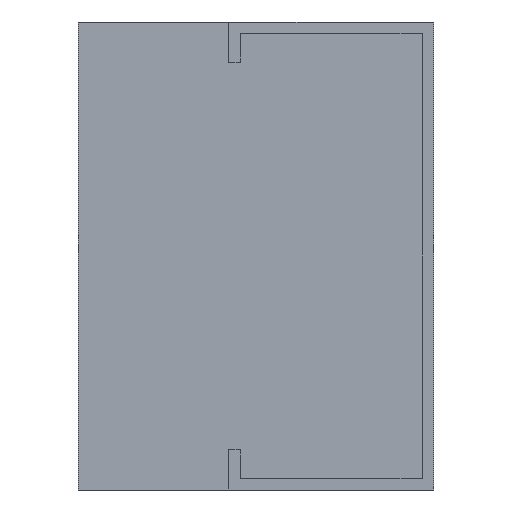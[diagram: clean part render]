
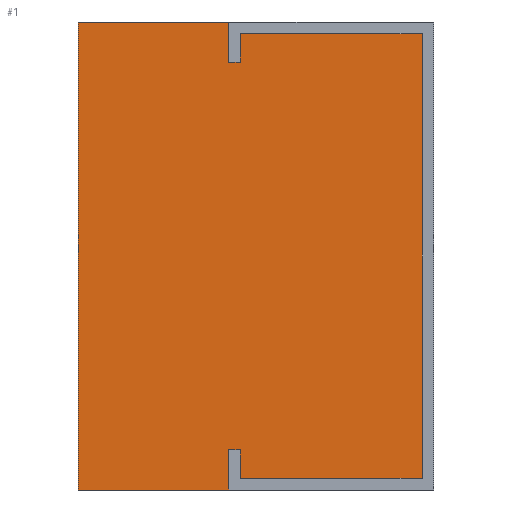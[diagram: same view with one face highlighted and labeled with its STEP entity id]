
A CAD part, left-side view. The second image highlights one B-rep face of the part: STEP entity #1.
In plain terms, the highlighted planar face has unit normal (-1, 0, 0).
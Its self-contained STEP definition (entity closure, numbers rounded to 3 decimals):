
#1 = ADVANCED_FACE ( 'NONE', ( #190 ), #75, .F. ) ;
#27 = DIRECTION ( 'NONE',  ( 0., 1., 0. ) ) ;
#30 = DIRECTION ( 'NONE',  ( 0., 0., 1. ) ) ;
#75 = PLANE ( 'NONE',  #1472 ) ;
#190 = FACE_OUTER_BOUND ( 'NONE', #1462, .T. ) ;
#194 = CARTESIAN_POINT ( 'NONE',  ( -16.3, -52.3, 46.7 ) ) ;
#283 = LINE ( 'NONE', #402, #1251 ) ;
#312 = CARTESIAN_POINT ( 'NONE',  ( -16.3, -54.6, -46.7 ) ) ;
#393 = EDGE_CURVE ( 'NONE', #431, #1070, #822, .T. ) ;
#402 = CARTESIAN_POINT ( 'NONE',  ( -16.3, -52.3, 46.7 ) ) ;
#420 = CARTESIAN_POINT ( 'NONE',  ( -16.3, 16.3, -124.736 ) ) ;
#431 = VERTEX_POINT ( 'NONE', #1500 ) ;
#506 = ORIENTED_EDGE ( 'NONE', *, *, #1045, .T. ) ;
#677 = VECTOR ( 'NONE', #1418, 1000. ) ;
#789 = LINE ( 'NONE', #796, #1421 ) ;
#796 = CARTESIAN_POINT ( 'NONE',  ( -16.3, -54.6, 46.7 ) ) ;
#813 = ORIENTED_EDGE ( 'NONE', *, *, #1097, .F. ) ;
#822 = LINE ( 'NONE', #312, #887 ) ;
#824 = CARTESIAN_POINT ( 'NONE',  ( -16.3, -54.6, -124.736 ) ) ;
#887 = VECTOR ( 'NONE', #1331, 1000. ) ;
#904 = LINE ( 'NONE', #420, #677 ) ;
#949 = CARTESIAN_POINT ( 'NONE',  ( -16.3, 16.3, 46.7 ) ) ;
#1045 = EDGE_CURVE ( 'NONE', #1602, #1221, #789, .T. ) ;
#1070 = VERTEX_POINT ( 'NONE', #1543 ) ;
#1097 = EDGE_CURVE ( 'NONE', #1070, #1221, #904, .T. ) ;
#1221 = VERTEX_POINT ( 'NONE', #949 ) ;
#1251 = VECTOR ( 'NONE', #30, 1000. ) ;
#1331 = DIRECTION ( 'NONE',  ( 0., 1., 0. ) ) ;
#1418 = DIRECTION ( 'NONE',  ( 0., 0., 1. ) ) ;
#1420 = ORIENTED_EDGE ( 'NONE', *, *, #1476, .T. ) ;
#1421 = VECTOR ( 'NONE', #27, 1000. ) ;
#1434 = DIRECTION ( 'NONE',  ( 0., 0., -1. ) ) ;
#1462 = EDGE_LOOP ( 'NONE', ( #1513, #1420, #506, #813 ) ) ;
#1472 = AXIS2_PLACEMENT_3D ( 'NONE', #824, #1589, #1434 ) ;
#1476 = EDGE_CURVE ( 'NONE', #431, #1602, #283, .T. ) ;
#1500 = CARTESIAN_POINT ( 'NONE',  ( -16.3, -52.3, -46.7 ) ) ;
#1513 = ORIENTED_EDGE ( 'NONE', *, *, #393, .F. ) ;
#1543 = CARTESIAN_POINT ( 'NONE',  ( -16.3, 16.3, -46.7 ) ) ;
#1589 = DIRECTION ( 'NONE',  ( 1., 0., 0. ) ) ;
#1602 = VERTEX_POINT ( 'NONE', #194 ) ;
